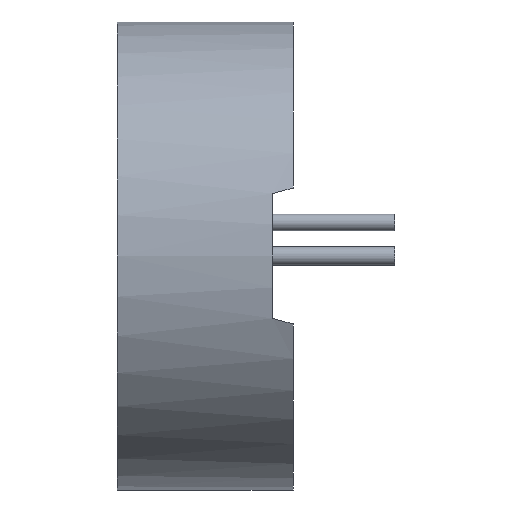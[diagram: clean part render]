
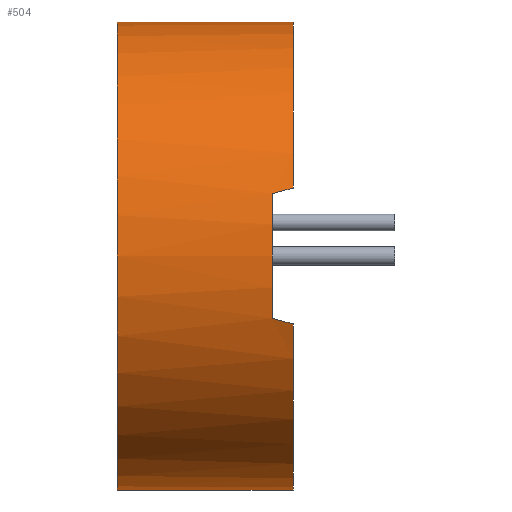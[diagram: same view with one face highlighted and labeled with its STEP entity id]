
A CAD part, left-side view. The second image highlights one B-rep face of the part: STEP entity #504.
In plain terms, the highlighted cylindrical face has radius 14.287 mm (diameter 28.575 mm), a partial arc.
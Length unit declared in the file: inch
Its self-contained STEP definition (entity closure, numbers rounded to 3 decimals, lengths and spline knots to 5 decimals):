
#25 = EDGE_CURVE ( 'NONE', #925, #1157, #1104, .T. ) ;
#40 = CARTESIAN_POINT ( 'NONE',  ( 0., 0.423, -0.5625 ) ) ;
#66 = CARTESIAN_POINT ( 'NONE',  ( 0., 0., 0.5625 ) ) ;
#103 = DIRECTION ( 'NONE',  ( 0., -1., 0. ) ) ;
#112 = CARTESIAN_POINT ( 'NONE',  ( -0.54213, 0.05, -0.15 ) ) ;
#126 = CARTESIAN_POINT ( 'NONE',  ( 0., 0.423, 0. ) ) ;
#150 = CARTESIAN_POINT ( 'NONE',  ( -0.54213, 0.05, 0.15 ) ) ;
#177 = CARTESIAN_POINT ( 'NONE',  ( 0., 0.423, -0.5625 ) ) ;
#179 = EDGE_CURVE ( 'NONE', #621, #973, #1393, .T. ) ;
#185 = ORIENTED_EDGE ( 'NONE', *, *, #179, .T. ) ;
#209 = DIRECTION ( 'NONE',  ( 0., -1., 0. ) ) ;
#216 = DIRECTION ( 'NONE',  ( 0., -1., 0. ) ) ;
#228 = AXIS2_PLACEMENT_3D ( 'NONE', #126, #103, #619 ) ;
#300 = VECTOR ( 'NONE', #216, 39.37008 ) ;
#303 = EDGE_CURVE ( 'NONE', #978, #463, #1188, .T. ) ;
#321 = CARTESIAN_POINT ( 'NONE',  ( 0., 0., 0. ) ) ;
#326 = LINE ( 'NONE', #862, #882 ) ;
#394 = CARTESIAN_POINT ( 'NONE',  ( 0., 0.423, 0.5625 ) ) ;
#415 = EDGE_LOOP ( 'NONE', ( #1130, #1084, #1319, #939, #185, #618, #718, #1255 ) ) ;
#445 = DIRECTION ( 'NONE',  ( 0., 0., 1. ) ) ;
#446 = DIRECTION ( 'NONE',  ( 0., 1., 0. ) ) ;
#449 = CARTESIAN_POINT ( 'NONE',  ( 0., 0.05, 0. ) ) ;
#463 = VERTEX_POINT ( 'NONE', #1382 ) ;
#477 = EDGE_CURVE ( 'NONE', #463, #748, #1256, .T. ) ;
#504 = ADVANCED_FACE ( 'NONE', ( #887 ), #1237, .T. ) ;
#601 = DIRECTION ( 'NONE',  ( 0., 0., 1. ) ) ;
#603 = DIRECTION ( 'NONE',  ( 0., 1., 0. ) ) ;
#607 = CARTESIAN_POINT ( 'NONE',  ( 0., 0., 0. ) ) ;
#614 = VERTEX_POINT ( 'NONE', #744 ) ;
#618 = ORIENTED_EDGE ( 'NONE', *, *, #1369, .T. ) ;
#619 = DIRECTION ( 'NONE',  ( 0., 0., -1. ) ) ;
#621 = VERTEX_POINT ( 'NONE', #747 ) ;
#640 = CARTESIAN_POINT ( 'NONE',  ( 0., 0.423, 0. ) ) ;
#669 = LINE ( 'NONE', #177, #300 ) ;
#673 = EDGE_CURVE ( 'NONE', #1157, #748, #326, .T. ) ;
#710 = DIRECTION ( 'NONE',  ( 0., 0., 1. ) ) ;
#711 = DIRECTION ( 'NONE',  ( 0., 1., 0. ) ) ;
#718 = ORIENTED_EDGE ( 'NONE', *, *, #303, .T. ) ;
#744 = CARTESIAN_POINT ( 'NONE',  ( 0., 0., -0.5625 ) ) ;
#747 = CARTESIAN_POINT ( 'NONE',  ( -0.53824, 0., -0.1634 ) ) ;
#748 = VERTEX_POINT ( 'NONE', #66 ) ;
#862 = CARTESIAN_POINT ( 'NONE',  ( 0., 0.423, 0.5625 ) ) ;
#882 = VECTOR ( 'NONE', #209, 39.37008 ) ;
#887 = FACE_OUTER_BOUND ( 'NONE', #415, .T. ) ;
#925 = VERTEX_POINT ( 'NONE', #40 ) ;
#939 = ORIENTED_EDGE ( 'NONE', *, *, #1402, .T. ) ;
#967 = AXIS2_PLACEMENT_3D ( 'NONE', #607, #603, #601 ) ;
#973 = VERTEX_POINT ( 'NONE', #112 ) ;
#978 = VERTEX_POINT ( 'NONE', #150 ) ;
#1011 = EDGE_CURVE ( 'NONE', #925, #614, #669, .T. ) ;
#1021 = CARTESIAN_POINT ( 'NONE',  ( -0.53824, 0., -0.1634 ) ) ;
#1041 = AXIS2_PLACEMENT_3D ( 'NONE', #449, #446, #445 ) ;
#1065 = CARTESIAN_POINT ( 'NONE',  ( -0.54213, 0.05, -0.15 ) ) ;
#1084 = ORIENTED_EDGE ( 'NONE', *, *, #25, .F. ) ;
#1086 = CIRCLE ( 'NONE', #1169, 0.5625 ) ;
#1101 = CARTESIAN_POINT ( 'NONE',  ( -0.5396, 0.01661, 0.15895 ) ) ;
#1104 = CIRCLE ( 'NONE', #1145, 0.5625 ) ;
#1130 = ORIENTED_EDGE ( 'NONE', *, *, #673, .F. ) ;
#1145 = AXIS2_PLACEMENT_3D ( 'NONE', #640, #711, #710 ) ;
#1148 = DIRECTION ( 'NONE',  ( 0., 1., 0. ) ) ;
#1157 = VERTEX_POINT ( 'NONE', #394 ) ;
#1161 = CARTESIAN_POINT ( 'NONE',  ( -0.53824, 0., 0.1634 ) ) ;
#1169 = AXIS2_PLACEMENT_3D ( 'NONE', #321, #1148, #1344 ) ;
#1181 = CARTESIAN_POINT ( 'NONE',  ( -0.54089, 0.03327, -0.15448 ) ) ;
#1188 =( BOUNDED_CURVE ( )  B_SPLINE_CURVE ( 3, ( #1252, #1235, #1101, #1161 ),
 .UNSPECIFIED., .F., .F. ) 
 B_SPLINE_CURVE_WITH_KNOTS ( ( 4, 4 ),
 ( 4.98232, 5.00713 ),
 .UNSPECIFIED. ) 
 CURVE ( )  GEOMETRIC_REPRESENTATION_ITEM ( )  RATIONAL_B_SPLINE_CURVE ( ( 1., 1., 1., 1. ) ) 
 REPRESENTATION_ITEM ( '' )  );
#1235 = CARTESIAN_POINT ( 'NONE',  ( -0.54089, 0.03327, 0.15448 ) ) ;
#1237 = CYLINDRICAL_SURFACE ( 'NONE', #228, 0.5625 ) ;
#1252 = CARTESIAN_POINT ( 'NONE',  ( -0.54213, 0.05, 0.15 ) ) ;
#1255 = ORIENTED_EDGE ( 'NONE', *, *, #477, .T. ) ;
#1256 = CIRCLE ( 'NONE', #967, 0.5625 ) ;
#1319 = ORIENTED_EDGE ( 'NONE', *, *, #1011, .T. ) ;
#1344 = DIRECTION ( 'NONE',  ( 0., 0., 1. ) ) ;
#1363 = CARTESIAN_POINT ( 'NONE',  ( -0.5396, 0.01661, -0.15895 ) ) ;
#1369 = EDGE_CURVE ( 'NONE', #973, #978, #1409, .T. ) ;
#1382 = CARTESIAN_POINT ( 'NONE',  ( -0.53824, 0., 0.1634 ) ) ;
#1393 =( BOUNDED_CURVE ( )  B_SPLINE_CURVE ( 3, ( #1021, #1363, #1181, #1065 ),
 .UNSPECIFIED., .F., .T. ) 
 B_SPLINE_CURVE_WITH_KNOTS ( ( 4, 4 ),
 ( 1.27606, 1.30086 ),
 .UNSPECIFIED. ) 
 CURVE ( )  GEOMETRIC_REPRESENTATION_ITEM ( )  RATIONAL_B_SPLINE_CURVE ( ( 1., 1., 1., 1. ) ) 
 REPRESENTATION_ITEM ( '' )  );
#1402 = EDGE_CURVE ( 'NONE', #614, #621, #1086, .T. ) ;
#1409 = CIRCLE ( 'NONE', #1041, 0.5625 ) ;
